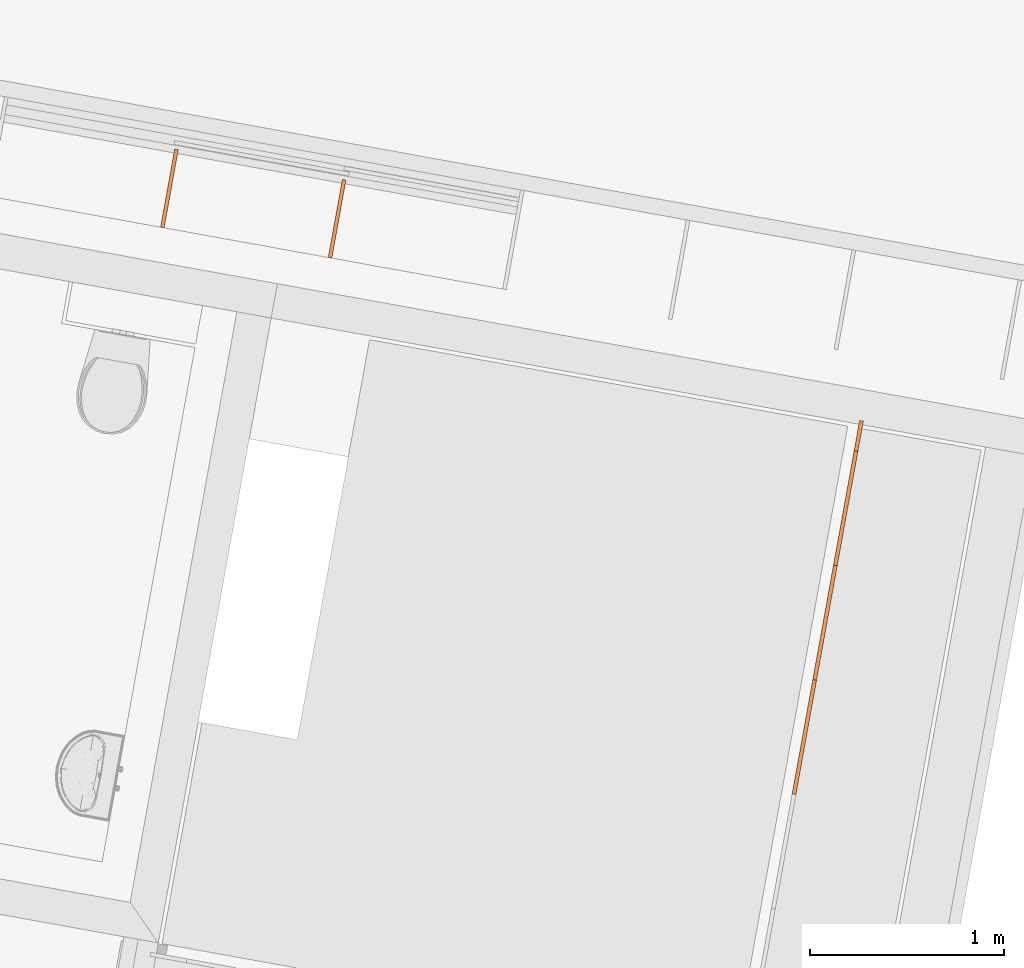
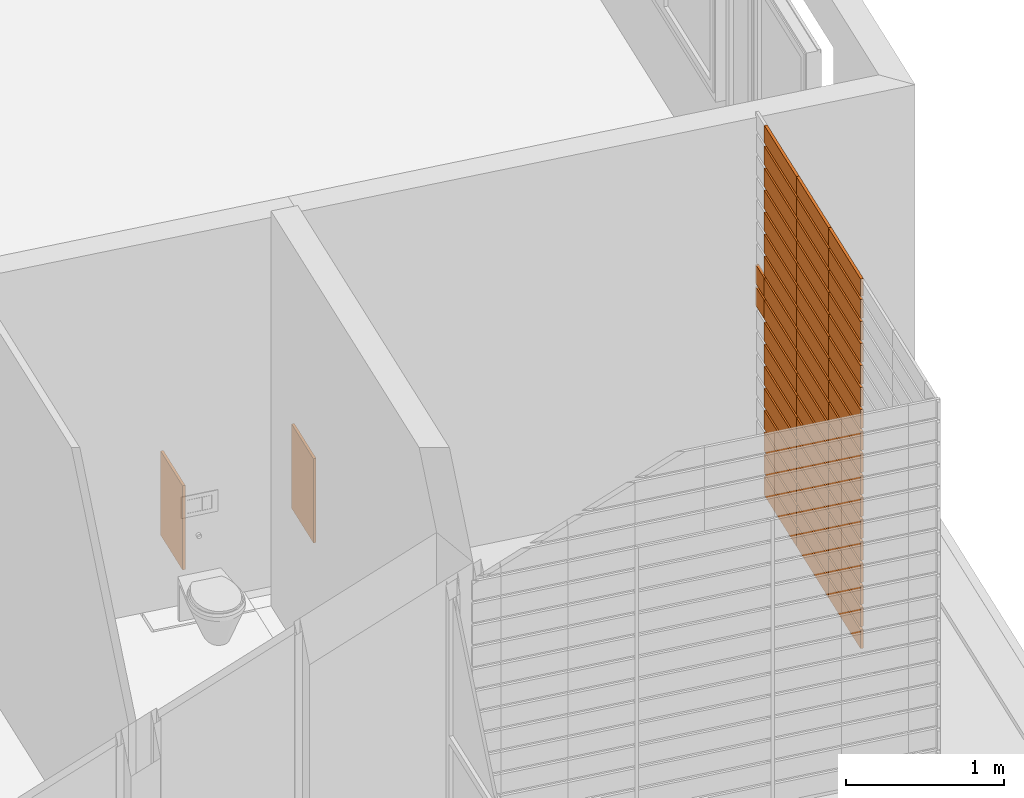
# One storey, part 33 of 52: 55 proxies, 1 element without a shape of its own.
"""IFC2X3 building model written with IfcOpenShell, lengths in metres."""

from ifc_helpers import new_model, entity, si_unit, converted_unit, derived_unit, money_unit, direction, frame, origin_with_axes, place, context, subcontext, project, spatial, polyline, outline, extrude, material, type_object, element, aggregate, save


model = new_model("IFC2X3")

# Units and contexts
model_context = context("Model", 3, precision=1e-05, world=origin_with_axes(), true_north=direction((0.0, 1.0)))
body_context = subcontext(model_context, "Body", "Model", "MODEL_VIEW")
ifc_project = project(units=[si_unit("LENGTHUNIT", "METRE"), si_unit("AREAUNIT", "SQUARE_METRE"), si_unit("VOLUMEUNIT", "CUBIC_METRE"), converted_unit("PLANEANGLEUNIT", "DEGREE", entity("IfcPlaneAngleMeasure", 0.0174532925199), si_unit("PLANEANGLEUNIT", "RADIAN"), dimensions=[0, 0, 0, 0, 0, 0, 0]), money_unit("CHF"), converted_unit("TIMEUNIT", "Year", entity("IfcTimeMeasure", 31556926.0), si_unit("TIMEUNIT", "SECOND"), dimensions=[0, 0, 1, 0, 0, 0, 0]), si_unit("MASSUNIT", "GRAM", prefix="KILO"), si_unit("THERMODYNAMICTEMPERATUREUNIT", "DEGREE_CELSIUS"), si_unit("LUMINOUSINTENSITYUNIT", "LUMEN"), si_unit("ENERGYUNIT", "JOULE", prefix="MEGA"), derived_unit("THERMALCONDUCTANCEUNIT", [(si_unit("POWERUNIT", "WATT"), 1), (si_unit("LENGTHUNIT", "METRE"), -1), (si_unit("THERMODYNAMICTEMPERATUREUNIT", "KELVIN"), -1)]), derived_unit("SPECIFICHEATCAPACITYUNIT", [(si_unit("ENERGYUNIT", "JOULE"), 1), (si_unit("MASSUNIT", "GRAM", prefix="KILO"), -1), (si_unit("THERMODYNAMICTEMPERATUREUNIT", "KELVIN"), -1)]), derived_unit("MASSDENSITYUNIT", [(si_unit("MASSUNIT", "GRAM", prefix="KILO"), 1), (si_unit("VOLUMEUNIT", "CUBIC_METRE"), -1)])], contexts=[model_context])

# Site, building, storey
site_placement = place(None, frame((0.0, 0.0, 0.0), z_axis=(0.0, 0.0, 1.0), x_axis=(-0.177771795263, -0.984071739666, 0.0)))
site = spatial("IfcSite", under=ifc_project, at=site_placement, Name="Site", CompositionType="ELEMENT")
building_placement = place(site_placement, origin_with_axes())
building = spatial("IfcBuilding", under=site, at=building_placement, Name="Bâtiment", CompositionType="ELEMENT")
storey_placement = place(building_placement, frame((0.0, 0.0, 3.2), z_axis=(0.0, 0.0, 1.0), x_axis=(1.0, 0.0, 0.0)))
storey = spatial("IfcBuildingStorey", under=building, at=storey_placement, Name="R+1", CompositionType="ELEMENT", Elevation=3.2)

# Proxies
ifc_material_1 = material(Name="_panneau mélaminé")
building_element_proxy_type_1 = type_object("IfcBuildingElementProxyType", Name="_panneau mélaminé 19", PredefinedType="NOTDEFINED")
proxy_1_placement = place(storey_placement, frame((137.244841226, -152.903049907, 0.0), z_axis=(0.0, 0.0, 1.0), x_axis=(1.0, 0.0, 0.0)))
element("IfcBuildingElementProxy", 1, at=proxy_1_placement, inside=storey, type_object=building_element_proxy_type_1, material=ifc_material_1, Name="raidiseur-sous-tableau", context=body_context, shape_type="SweptSolid", body=[
    extrude(outline(polyline([(0.0, -0.0095), (0.409999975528, -0.0095), (0.409999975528, 0.0095), (0.0, 0.0095), (0.0, -0.0095)])), origin_with_axes(), (0.0, 0.0, 1.0), 0.65),
])
proxy_2_placement = place(storey_placement, frame((137.244841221, -152.023049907, 0.0), z_axis=(0.0, 0.0, 1.0), x_axis=(1.0, 0.0, 0.0)))
element("IfcBuildingElementProxy", 2, at=proxy_2_placement, inside=storey, type_object=building_element_proxy_type_1, material=ifc_material_1, Name="raidiseur-sous-tableau", context=body_context, shape_type="SweptSolid", body=[
    extrude(outline(polyline([(0.0, -0.0095), (0.409999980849, -0.0095), (0.409999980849, 0.0095), (0.0, 0.0095), (0.0, -0.0095)])), origin_with_axes(), (0.0, 0.0, 1.0), 0.65),
])

# Curtain wall, proxies
curtain_wall_type = type_object("IfcCurtainWallType", Name="Type de mur-rideau", PredefinedType="NOTDEFINED")
curtain_wall_placement = place(storey_placement, frame((0.0, 0.0, -3.2), z_axis=(0.0, 0.0, 1.0), x_axis=(1.0, 0.0, 0.0)))
curtain_wall = element("IfcCurtainWall", 3, at=curtain_wall_placement, inside=storey, type_object=curtain_wall_type, Name="pare-vue CTA")
ifc_material_2 = material(Name="Matériau de construction IFC")
building_element_proxy_type_2 = type_object("IfcBuildingElementProxyType", Name="Panneau principal 600 x 170 x 20", PredefinedType="NOTDEFINED")
proxy_3_placement = place(curtain_wall_placement, frame((138.454841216, -149.172151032, 5.3375), z_axis=(0.0, 0.0, 1.0), x_axis=(-1.0, 0.0, 0.0)))
proxy_3 = element("IfcBuildingElementProxy", 4, at=proxy_3_placement, type_object=building_element_proxy_type_2, material=ifc_material_2, Name="Panel-Main-259", context=body_context, shape_type="SweptSolid", body=[
    extrude(outline(polyline([(-0.3, -0.0725), (0.3, -0.0725), (0.3, 0.0725), (-0.3, 0.0725), (-0.3, -0.0725)])), frame((0.0, -0.00999999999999, 0.0), z_axis=(0.0, 1.0, 0.0), x_axis=(1.0, 0.0, 0.0)), (0.0, 0.0, 1.0), 0.02),
])
proxy_4_placement = place(curtain_wall_placement, frame((139.054841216, -149.172151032, 3.2975), z_axis=(0.0, 0.0, 1.0), x_axis=(-1.0, 0.0, 0.0)))
proxy_4 = element("IfcBuildingElementProxy", 5, at=proxy_4_placement, type_object=building_element_proxy_type_2, material=ifc_material_2, Name="Panel-Main-259", context=body_context, shape_type="SweptSolid", body=[
    extrude(outline(polyline([(-0.3, -0.0725), (0.3, -0.0725), (0.3, 0.0725), (-0.3, 0.0725), (-0.3, -0.0725)])), frame((0.0, -0.00999999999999, 0.0), z_axis=(0.0, 1.0, 0.0), x_axis=(1.0, 0.0, 0.0)), (0.0, 0.0, 1.0), 0.02),
])
proxy_5_placement = place(curtain_wall_placement, frame((139.654841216, -149.172151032, 3.2975), z_axis=(0.0, 0.0, 1.0), x_axis=(-1.0, 0.0, 0.0)))
proxy_5 = element("IfcBuildingElementProxy", 6, at=proxy_5_placement, type_object=building_element_proxy_type_2, material=ifc_material_2, Name="Panel-Main-259", context=body_context, shape_type="SweptSolid", body=[
    extrude(outline(polyline([(-0.3, -0.0725), (0.3, -0.0725), (0.3, 0.0725), (-0.3, 0.0725), (-0.3, -0.0725)])), frame((0.0, -0.00999999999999, 0.0), z_axis=(0.0, 1.0, 0.0), x_axis=(1.0, 0.0, 0.0)), (0.0, 0.0, 1.0), 0.02),
])
proxy_6_placement = place(curtain_wall_placement, frame((139.054841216, -149.172151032, 3.4675), z_axis=(0.0, 0.0, 1.0), x_axis=(-1.0, 0.0, 0.0)))
proxy_6 = element("IfcBuildingElementProxy", 7, at=proxy_6_placement, type_object=building_element_proxy_type_2, material=ifc_material_2, Name="Panel-Main-259", context=body_context, shape_type="SweptSolid", body=[
    extrude(outline(polyline([(-0.3, -0.0725), (0.3, -0.0725), (0.3, 0.0725), (-0.3, 0.0725), (-0.3, -0.0725)])), frame((0.0, -0.00999999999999, 0.0), z_axis=(0.0, 1.0, 0.0), x_axis=(1.0, 0.0, 0.0)), (0.0, 0.0, 1.0), 0.02),
])
proxy_7_placement = place(curtain_wall_placement, frame((139.654841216, -149.172151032, 3.4675), z_axis=(0.0, 0.0, 1.0), x_axis=(-1.0, 0.0, 0.0)))
proxy_7 = element("IfcBuildingElementProxy", 8, at=proxy_7_placement, type_object=building_element_proxy_type_2, material=ifc_material_2, Name="Panel-Main-259", context=body_context, shape_type="SweptSolid", body=[
    extrude(outline(polyline([(-0.3, -0.0725), (0.3, -0.0725), (0.3, 0.0725), (-0.3, 0.0725), (-0.3, -0.0725)])), frame((0.0, -0.00999999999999, 0.0), z_axis=(0.0, 1.0, 0.0), x_axis=(1.0, 0.0, 0.0)), (0.0, 0.0, 1.0), 0.02),
])
proxy_8_placement = place(curtain_wall_placement, frame((138.454841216, -149.172151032, 4.3175), z_axis=(0.0, 0.0, 1.0), x_axis=(-1.0, 0.0, 0.0)))
proxy_8 = element("IfcBuildingElementProxy", 9, at=proxy_8_placement, type_object=building_element_proxy_type_2, material=ifc_material_2, Name="Panel-Main-259", context=body_context, shape_type="SweptSolid", body=[
    extrude(outline(polyline([(-0.3, -0.0725), (0.3, -0.0725), (0.3, 0.0725), (-0.3, 0.0725), (-0.3, -0.0725)])), frame((0.0, -0.00999999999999, 0.0), z_axis=(0.0, 1.0, 0.0), x_axis=(1.0, 0.0, 0.0)), (0.0, 0.0, 1.0), 0.02),
])
proxy_9_placement = place(curtain_wall_placement, frame((139.054841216, -149.172151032, 3.6375), z_axis=(0.0, 0.0, 1.0), x_axis=(-1.0, 0.0, 0.0)))
proxy_9 = element("IfcBuildingElementProxy", 10, at=proxy_9_placement, type_object=building_element_proxy_type_2, material=ifc_material_2, Name="Panel-Main-259", context=body_context, shape_type="SweptSolid", body=[
    extrude(outline(polyline([(-0.3, -0.0725), (0.3, -0.0725), (0.3, 0.0725), (-0.3, 0.0725), (-0.3, -0.0725)])), frame((0.0, -0.00999999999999, 0.0), z_axis=(0.0, 1.0, 0.0), x_axis=(1.0, 0.0, 0.0)), (0.0, 0.0, 1.0), 0.02),
])
proxy_10_placement = place(curtain_wall_placement, frame((139.654841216, -149.172151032, 3.6375), z_axis=(0.0, 0.0, 1.0), x_axis=(-1.0, 0.0, 0.0)))
proxy_10 = element("IfcBuildingElementProxy", 11, at=proxy_10_placement, type_object=building_element_proxy_type_2, material=ifc_material_2, Name="Panel-Main-259", context=body_context, shape_type="SweptSolid", body=[
    extrude(outline(polyline([(-0.3, -0.0725), (0.3, -0.0725), (0.3, 0.0725), (-0.3, 0.0725), (-0.3, -0.0725)])), frame((0.0, -0.00999999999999, 0.0), z_axis=(0.0, 1.0, 0.0), x_axis=(1.0, 0.0, 0.0)), (0.0, 0.0, 1.0), 0.02),
])
proxy_11_placement = place(curtain_wall_placement, frame((139.054841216, -149.172151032, 3.8075), z_axis=(0.0, 0.0, 1.0), x_axis=(-1.0, 0.0, 0.0)))
proxy_11 = element("IfcBuildingElementProxy", 12, at=proxy_11_placement, type_object=building_element_proxy_type_2, material=ifc_material_2, Name="Panel-Main-259", context=body_context, shape_type="SweptSolid", body=[
    extrude(outline(polyline([(-0.3, -0.0725), (0.3, -0.0725), (0.3, 0.0725), (-0.3, 0.0725), (-0.3, -0.0725)])), frame((0.0, -0.00999999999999, 0.0), z_axis=(0.0, 1.0, 0.0), x_axis=(1.0, 0.0, 0.0)), (0.0, 0.0, 1.0), 0.02),
])
proxy_12_placement = place(curtain_wall_placement, frame((139.654841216, -149.172151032, 3.8075), z_axis=(0.0, 0.0, 1.0), x_axis=(-1.0, 0.0, 0.0)))
proxy_12 = element("IfcBuildingElementProxy", 13, at=proxy_12_placement, type_object=building_element_proxy_type_2, material=ifc_material_2, Name="Panel-Main-259", context=body_context, shape_type="SweptSolid", body=[
    extrude(outline(polyline([(-0.3, -0.0725), (0.3, -0.0725), (0.3, 0.0725), (-0.3, 0.0725), (-0.3, -0.0725)])), frame((0.0, -0.00999999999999, 0.0), z_axis=(0.0, 1.0, 0.0), x_axis=(1.0, 0.0, 0.0)), (0.0, 0.0, 1.0), 0.02),
])
proxy_13_placement = place(curtain_wall_placement, frame((139.054841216, -149.172151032, 3.9775), z_axis=(0.0, 0.0, 1.0), x_axis=(-1.0, 0.0, 0.0)))
proxy_13 = element("IfcBuildingElementProxy", 14, at=proxy_13_placement, type_object=building_element_proxy_type_2, material=ifc_material_2, Name="Panel-Main-259", context=body_context, shape_type="SweptSolid", body=[
    extrude(outline(polyline([(-0.3, -0.0725), (0.3, -0.0725), (0.3, 0.0725), (-0.3, 0.0725), (-0.3, -0.0725)])), frame((0.0, -0.00999999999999, 0.0), z_axis=(0.0, 1.0, 0.0), x_axis=(1.0, 0.0, 0.0)), (0.0, 0.0, 1.0), 0.02),
])
proxy_14_placement = place(curtain_wall_placement, frame((139.654841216, -149.172151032, 3.9775), z_axis=(0.0, 0.0, 1.0), x_axis=(-1.0, 0.0, 0.0)))
proxy_14 = element("IfcBuildingElementProxy", 15, at=proxy_14_placement, type_object=building_element_proxy_type_2, material=ifc_material_2, Name="Panel-Main-259", context=body_context, shape_type="SweptSolid", body=[
    extrude(outline(polyline([(-0.3, -0.0725), (0.3, -0.0725), (0.3, 0.0725), (-0.3, 0.0725), (-0.3, -0.0725)])), frame((0.0, -0.00999999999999, 0.0), z_axis=(0.0, 1.0, 0.0), x_axis=(1.0, 0.0, 0.0)), (0.0, 0.0, 1.0), 0.02),
])
proxy_15_placement = place(curtain_wall_placement, frame((138.454841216, -149.172151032, 3.6375), z_axis=(0.0, 0.0, 1.0), x_axis=(-1.0, 0.0, 0.0)))
proxy_15 = element("IfcBuildingElementProxy", 16, at=proxy_15_placement, type_object=building_element_proxy_type_2, material=ifc_material_2, Name="Panel-Main-259", context=body_context, shape_type="SweptSolid", body=[
    extrude(outline(polyline([(-0.3, -0.0725), (0.3, -0.0725), (0.3, 0.0725), (-0.3, 0.0725), (-0.3, -0.0725)])), frame((0.0, -0.00999999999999, 0.0), z_axis=(0.0, 1.0, 0.0), x_axis=(1.0, 0.0, 0.0)), (0.0, 0.0, 1.0), 0.02),
])
proxy_16_placement = place(curtain_wall_placement, frame((139.054841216, -149.172151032, 4.1475), z_axis=(0.0, 0.0, 1.0), x_axis=(-1.0, 0.0, 0.0)))
proxy_16 = element("IfcBuildingElementProxy", 17, at=proxy_16_placement, type_object=building_element_proxy_type_2, material=ifc_material_2, Name="Panel-Main-259", context=body_context, shape_type="SweptSolid", body=[
    extrude(outline(polyline([(-0.3, -0.0725), (0.3, -0.0725), (0.3, 0.0725), (-0.3, 0.0725), (-0.3, -0.0725)])), frame((0.0, -0.00999999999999, 0.0), z_axis=(0.0, 1.0, 0.0), x_axis=(1.0, 0.0, 0.0)), (0.0, 0.0, 1.0), 0.02),
])
proxy_17_placement = place(curtain_wall_placement, frame((139.654841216, -149.172151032, 4.1475), z_axis=(0.0, 0.0, 1.0), x_axis=(-1.0, 0.0, 0.0)))
proxy_17 = element("IfcBuildingElementProxy", 18, at=proxy_17_placement, type_object=building_element_proxy_type_2, material=ifc_material_2, Name="Panel-Main-259", context=body_context, shape_type="SweptSolid", body=[
    extrude(outline(polyline([(-0.3, -0.0725), (0.3, -0.0725), (0.3, 0.0725), (-0.3, 0.0725), (-0.3, -0.0725)])), frame((0.0, -0.00999999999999, 0.0), z_axis=(0.0, 1.0, 0.0), x_axis=(1.0, 0.0, 0.0)), (0.0, 0.0, 1.0), 0.02),
])
proxy_18_placement = place(curtain_wall_placement, frame((138.454841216, -149.172151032, 5.8475), z_axis=(0.0, 0.0, 1.0), x_axis=(-1.0, 0.0, 0.0)))
proxy_18 = element("IfcBuildingElementProxy", 19, at=proxy_18_placement, type_object=building_element_proxy_type_2, material=ifc_material_2, Name="Panel-Main-259", context=body_context, shape_type="SweptSolid", body=[
    extrude(outline(polyline([(-0.3, -0.0725), (0.3, -0.0725), (0.3, 0.0725), (-0.3, 0.0725), (-0.3, -0.0725)])), frame((0.0, -0.00999999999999, 0.0), z_axis=(0.0, 1.0, 0.0), x_axis=(1.0, 0.0, 0.0)), (0.0, 0.0, 1.0), 0.02),
])
proxy_19_placement = place(curtain_wall_placement, frame((139.054841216, -149.172151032, 4.3175), z_axis=(0.0, 0.0, 1.0), x_axis=(-1.0, 0.0, 0.0)))
proxy_19 = element("IfcBuildingElementProxy", 20, at=proxy_19_placement, type_object=building_element_proxy_type_2, material=ifc_material_2, Name="Panel-Main-259", context=body_context, shape_type="SweptSolid", body=[
    extrude(outline(polyline([(-0.3, -0.0725), (0.3, -0.0725), (0.3, 0.0725), (-0.3, 0.0725), (-0.3, -0.0725)])), frame((0.0, -0.00999999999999, 0.0), z_axis=(0.0, 1.0, 0.0), x_axis=(1.0, 0.0, 0.0)), (0.0, 0.0, 1.0), 0.02),
])
proxy_20_placement = place(curtain_wall_placement, frame((139.654841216, -149.172151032, 4.3175), z_axis=(0.0, 0.0, 1.0), x_axis=(-1.0, 0.0, 0.0)))
proxy_20 = element("IfcBuildingElementProxy", 21, at=proxy_20_placement, type_object=building_element_proxy_type_2, material=ifc_material_2, Name="Panel-Main-259", context=body_context, shape_type="SweptSolid", body=[
    extrude(outline(polyline([(-0.3, -0.0725), (0.3, -0.0725), (0.3, 0.0725), (-0.3, 0.0725), (-0.3, -0.0725)])), frame((0.0, -0.00999999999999, 0.0), z_axis=(0.0, 1.0, 0.0), x_axis=(1.0, 0.0, 0.0)), (0.0, 0.0, 1.0), 0.02),
])
proxy_21_placement = place(curtain_wall_placement, frame((138.454841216, -149.172151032, 4.1475), z_axis=(0.0, 0.0, 1.0), x_axis=(-1.0, 0.0, 0.0)))
proxy_21 = element("IfcBuildingElementProxy", 22, at=proxy_21_placement, type_object=building_element_proxy_type_2, material=ifc_material_2, Name="Panel-Main-259", context=body_context, shape_type="SweptSolid", body=[
    extrude(outline(polyline([(-0.3, -0.0725), (0.3, -0.0725), (0.3, 0.0725), (-0.3, 0.0725), (-0.3, -0.0725)])), frame((0.0, -0.00999999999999, 0.0), z_axis=(0.0, 1.0, 0.0), x_axis=(1.0, 0.0, 0.0)), (0.0, 0.0, 1.0), 0.02),
])
proxy_22_placement = place(curtain_wall_placement, frame((139.054841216, -149.172151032, 4.4875), z_axis=(0.0, 0.0, 1.0), x_axis=(-1.0, 0.0, 0.0)))
proxy_22 = element("IfcBuildingElementProxy", 23, at=proxy_22_placement, type_object=building_element_proxy_type_2, material=ifc_material_2, Name="Panel-Main-259", context=body_context, shape_type="SweptSolid", body=[
    extrude(outline(polyline([(-0.3, -0.0725), (0.3, -0.0725), (0.3, 0.0725), (-0.3, 0.0725), (-0.3, -0.0725)])), frame((0.0, -0.00999999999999, 0.0), z_axis=(0.0, 1.0, 0.0), x_axis=(1.0, 0.0, 0.0)), (0.0, 0.0, 1.0), 0.02),
])
proxy_23_placement = place(curtain_wall_placement, frame((139.654841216, -149.172151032, 4.4875), z_axis=(0.0, 0.0, 1.0), x_axis=(-1.0, 0.0, 0.0)))
proxy_23 = element("IfcBuildingElementProxy", 24, at=proxy_23_placement, type_object=building_element_proxy_type_2, material=ifc_material_2, Name="Panel-Main-259", context=body_context, shape_type="SweptSolid", body=[
    extrude(outline(polyline([(-0.3, -0.0725), (0.3, -0.0725), (0.3, 0.0725), (-0.3, 0.0725), (-0.3, -0.0725)])), frame((0.0, -0.00999999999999, 0.0), z_axis=(0.0, 1.0, 0.0), x_axis=(1.0, 0.0, 0.0)), (0.0, 0.0, 1.0), 0.02),
])
proxy_24_placement = place(curtain_wall_placement, frame((138.454841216, -149.172151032, 4.8275), z_axis=(0.0, 0.0, 1.0), x_axis=(-1.0, 0.0, 0.0)))
proxy_24 = element("IfcBuildingElementProxy", 25, at=proxy_24_placement, type_object=building_element_proxy_type_2, material=ifc_material_2, Name="Panel-Main-259", context=body_context, shape_type="SweptSolid", body=[
    extrude(outline(polyline([(-0.3, -0.0725), (0.3, -0.0725), (0.3, 0.0725), (-0.3, 0.0725), (-0.3, -0.0725)])), frame((0.0, -0.00999999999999, 0.0), z_axis=(0.0, 1.0, 0.0), x_axis=(1.0, 0.0, 0.0)), (0.0, 0.0, 1.0), 0.02),
])
proxy_25_placement = place(curtain_wall_placement, frame((139.054841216, -149.172151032, 4.6575), z_axis=(0.0, 0.0, 1.0), x_axis=(-1.0, 0.0, 0.0)))
proxy_25 = element("IfcBuildingElementProxy", 26, at=proxy_25_placement, type_object=building_element_proxy_type_2, material=ifc_material_2, Name="Panel-Main-259", context=body_context, shape_type="SweptSolid", body=[
    extrude(outline(polyline([(-0.3, -0.0725), (0.3, -0.0725), (0.3, 0.0725), (-0.3, 0.0725), (-0.3, -0.0725)])), frame((0.0, -0.00999999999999, 0.0), z_axis=(0.0, 1.0, 0.0), x_axis=(1.0, 0.0, 0.0)), (0.0, 0.0, 1.0), 0.02),
])
proxy_26_placement = place(curtain_wall_placement, frame((139.654841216, -149.172151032, 4.6575), z_axis=(0.0, 0.0, 1.0), x_axis=(-1.0, 0.0, 0.0)))
proxy_26 = element("IfcBuildingElementProxy", 27, at=proxy_26_placement, type_object=building_element_proxy_type_2, material=ifc_material_2, Name="Panel-Main-259", context=body_context, shape_type="SweptSolid", body=[
    extrude(outline(polyline([(-0.3, -0.0725), (0.3, -0.0725), (0.3, 0.0725), (-0.3, 0.0725), (-0.3, -0.0725)])), frame((0.0, -0.00999999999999, 0.0), z_axis=(0.0, 1.0, 0.0), x_axis=(1.0, 0.0, 0.0)), (0.0, 0.0, 1.0), 0.02),
])
proxy_27_placement = place(curtain_wall_placement, frame((138.454841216, -149.172151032, 4.4875), z_axis=(0.0, 0.0, 1.0), x_axis=(-1.0, 0.0, 0.0)))
proxy_27 = element("IfcBuildingElementProxy", 28, at=proxy_27_placement, type_object=building_element_proxy_type_2, material=ifc_material_2, Name="Panel-Main-259", context=body_context, shape_type="SweptSolid", body=[
    extrude(outline(polyline([(-0.3, -0.0725), (0.3, -0.0725), (0.3, 0.0725), (-0.3, 0.0725), (-0.3, -0.0725)])), frame((0.0, -0.00999999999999, 0.0), z_axis=(0.0, 1.0, 0.0), x_axis=(1.0, 0.0, 0.0)), (0.0, 0.0, 1.0), 0.02),
])
proxy_28_placement = place(curtain_wall_placement, frame((139.054841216, -149.172151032, 4.8275), z_axis=(0.0, 0.0, 1.0), x_axis=(-1.0, 0.0, 0.0)))
proxy_28 = element("IfcBuildingElementProxy", 29, at=proxy_28_placement, type_object=building_element_proxy_type_2, material=ifc_material_2, Name="Panel-Main-259", context=body_context, shape_type="SweptSolid", body=[
    extrude(outline(polyline([(-0.3, -0.0725), (0.3, -0.0725), (0.3, 0.0725), (-0.3, 0.0725), (-0.3, -0.0725)])), frame((0.0, -0.00999999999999, 0.0), z_axis=(0.0, 1.0, 0.0), x_axis=(1.0, 0.0, 0.0)), (0.0, 0.0, 1.0), 0.02),
])
proxy_29_placement = place(curtain_wall_placement, frame((139.654841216, -149.172151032, 4.8275), z_axis=(0.0, 0.0, 1.0), x_axis=(-1.0, 0.0, 0.0)))
proxy_29 = element("IfcBuildingElementProxy", 30, at=proxy_29_placement, type_object=building_element_proxy_type_2, material=ifc_material_2, Name="Panel-Main-259", context=body_context, shape_type="SweptSolid", body=[
    extrude(outline(polyline([(-0.3, -0.0725), (0.3, -0.0725), (0.3, 0.0725), (-0.3, 0.0725), (-0.3, -0.0725)])), frame((0.0, -0.00999999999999, 0.0), z_axis=(0.0, 1.0, 0.0), x_axis=(1.0, 0.0, 0.0)), (0.0, 0.0, 1.0), 0.02),
])
proxy_30_placement = place(curtain_wall_placement, frame((138.454841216, -149.172151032, 3.8075), z_axis=(0.0, 0.0, 1.0), x_axis=(-1.0, 0.0, 0.0)))
proxy_30 = element("IfcBuildingElementProxy", 31, at=proxy_30_placement, type_object=building_element_proxy_type_2, material=ifc_material_2, Name="Panel-Main-259", context=body_context, shape_type="SweptSolid", body=[
    extrude(outline(polyline([(-0.3, -0.0725), (0.3, -0.0725), (0.3, 0.0725), (-0.3, 0.0725), (-0.3, -0.0725)])), frame((0.0, -0.00999999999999, 0.0), z_axis=(0.0, 1.0, 0.0), x_axis=(1.0, 0.0, 0.0)), (0.0, 0.0, 1.0), 0.02),
])
proxy_31_placement = place(curtain_wall_placement, frame((139.054841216, -149.172151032, 4.9975), z_axis=(0.0, 0.0, 1.0), x_axis=(-1.0, 0.0, 0.0)))
proxy_31 = element("IfcBuildingElementProxy", 32, at=proxy_31_placement, type_object=building_element_proxy_type_2, material=ifc_material_2, Name="Panel-Main-259", context=body_context, shape_type="SweptSolid", body=[
    extrude(outline(polyline([(-0.3, -0.0725), (0.3, -0.0725), (0.3, 0.0725), (-0.3, 0.0725), (-0.3, -0.0725)])), frame((0.0, -0.00999999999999, 0.0), z_axis=(0.0, 1.0, 0.0), x_axis=(1.0, 0.0, 0.0)), (0.0, 0.0, 1.0), 0.02),
])
proxy_32_placement = place(curtain_wall_placement, frame((139.654841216, -149.172151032, 4.9975), z_axis=(0.0, 0.0, 1.0), x_axis=(-1.0, 0.0, 0.0)))
proxy_32 = element("IfcBuildingElementProxy", 33, at=proxy_32_placement, type_object=building_element_proxy_type_2, material=ifc_material_2, Name="Panel-Main-259", context=body_context, shape_type="SweptSolid", body=[
    extrude(outline(polyline([(-0.3, -0.0725), (0.3, -0.0725), (0.3, 0.0725), (-0.3, 0.0725), (-0.3, -0.0725)])), frame((0.0, -0.00999999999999, 0.0), z_axis=(0.0, 1.0, 0.0), x_axis=(1.0, 0.0, 0.0)), (0.0, 0.0, 1.0), 0.02),
])
proxy_33_placement = place(curtain_wall_placement, frame((138.454841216, -149.172151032, 3.2975), z_axis=(0.0, 0.0, 1.0), x_axis=(-1.0, 0.0, 0.0)))
proxy_33 = element("IfcBuildingElementProxy", 34, at=proxy_33_placement, type_object=building_element_proxy_type_2, material=ifc_material_2, Name="Panel-Main-259", context=body_context, shape_type="SweptSolid", body=[
    extrude(outline(polyline([(-0.3, -0.0725), (0.3, -0.0725), (0.3, 0.0725), (-0.3, 0.0725), (-0.3, -0.0725)])), frame((0.0, -0.00999999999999, 0.0), z_axis=(0.0, 1.0, 0.0), x_axis=(1.0, 0.0, 0.0)), (0.0, 0.0, 1.0), 0.02),
])
proxy_34_placement = place(curtain_wall_placement, frame((139.054841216, -149.172151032, 5.3375), z_axis=(0.0, 0.0, 1.0), x_axis=(-1.0, 0.0, 0.0)))
proxy_34 = element("IfcBuildingElementProxy", 35, at=proxy_34_placement, type_object=building_element_proxy_type_2, material=ifc_material_2, Name="Panel-Main-259", context=body_context, shape_type="SweptSolid", body=[
    extrude(outline(polyline([(-0.3, -0.0725), (0.3, -0.0725), (0.3, 0.0725), (-0.3, 0.0725), (-0.3, -0.0725)])), frame((0.0, -0.00999999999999, 0.0), z_axis=(0.0, 1.0, 0.0), x_axis=(1.0, 0.0, 0.0)), (0.0, 0.0, 1.0), 0.02),
])
proxy_35_placement = place(curtain_wall_placement, frame((139.654841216, -149.172151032, 5.3375), z_axis=(0.0, 0.0, 1.0), x_axis=(-1.0, 0.0, 0.0)))
proxy_35 = element("IfcBuildingElementProxy", 36, at=proxy_35_placement, type_object=building_element_proxy_type_2, material=ifc_material_2, Name="Panel-Main-259", context=body_context, shape_type="SweptSolid", body=[
    extrude(outline(polyline([(-0.3, -0.0725), (0.3, -0.0725), (0.3, 0.0725), (-0.3, 0.0725), (-0.3, -0.0725)])), frame((0.0, -0.00999999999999, 0.0), z_axis=(0.0, 1.0, 0.0), x_axis=(1.0, 0.0, 0.0)), (0.0, 0.0, 1.0), 0.02),
])
proxy_36_placement = place(curtain_wall_placement, frame((138.454841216, -149.172151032, 5.5075), z_axis=(0.0, 0.0, 1.0), x_axis=(-1.0, 0.0, 0.0)))
proxy_36 = element("IfcBuildingElementProxy", 37, at=proxy_36_placement, type_object=building_element_proxy_type_2, material=ifc_material_2, Name="Panel-Main-259", context=body_context, shape_type="SweptSolid", body=[
    extrude(outline(polyline([(-0.3, -0.0725), (0.3, -0.0725), (0.3, 0.0725), (-0.3, 0.0725), (-0.3, -0.0725)])), frame((0.0, -0.00999999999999, 0.0), z_axis=(0.0, 1.0, 0.0), x_axis=(1.0, 0.0, 0.0)), (0.0, 0.0, 1.0), 0.02),
])
proxy_37_placement = place(curtain_wall_placement, frame((139.054841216, -149.172151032, 5.5075), z_axis=(0.0, 0.0, 1.0), x_axis=(-1.0, 0.0, 0.0)))
proxy_37 = element("IfcBuildingElementProxy", 38, at=proxy_37_placement, type_object=building_element_proxy_type_2, material=ifc_material_2, Name="Panel-Main-259", context=body_context, shape_type="SweptSolid", body=[
    extrude(outline(polyline([(-0.3, -0.0725), (0.3, -0.0725), (0.3, 0.0725), (-0.3, 0.0725), (-0.3, -0.0725)])), frame((0.0, -0.00999999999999, 0.0), z_axis=(0.0, 1.0, 0.0), x_axis=(1.0, 0.0, 0.0)), (0.0, 0.0, 1.0), 0.02),
])
proxy_38_placement = place(curtain_wall_placement, frame((139.654841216, -149.172151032, 5.5075), z_axis=(0.0, 0.0, 1.0), x_axis=(-1.0, 0.0, 0.0)))
proxy_38 = element("IfcBuildingElementProxy", 39, at=proxy_38_placement, type_object=building_element_proxy_type_2, material=ifc_material_2, Name="Panel-Main-259", context=body_context, shape_type="SweptSolid", body=[
    extrude(outline(polyline([(-0.3, -0.0725), (0.3, -0.0725), (0.3, 0.0725), (-0.3, 0.0725), (-0.3, -0.0725)])), frame((0.0, -0.00999999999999, 0.0), z_axis=(0.0, 1.0, 0.0), x_axis=(1.0, 0.0, 0.0)), (0.0, 0.0, 1.0), 0.02),
])
proxy_39_placement = place(curtain_wall_placement, frame((139.054841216, -149.172151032, 5.6775), z_axis=(0.0, 0.0, 1.0), x_axis=(-1.0, 0.0, 0.0)))
proxy_39 = element("IfcBuildingElementProxy", 40, at=proxy_39_placement, type_object=building_element_proxy_type_2, material=ifc_material_2, Name="Panel-Main-259", context=body_context, shape_type="SweptSolid", body=[
    extrude(outline(polyline([(-0.3, -0.0725), (0.3, -0.0725), (0.3, 0.0725), (-0.3, 0.0725), (-0.3, -0.0725)])), frame((0.0, -0.00999999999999, 0.0), z_axis=(0.0, 1.0, 0.0), x_axis=(1.0, 0.0, 0.0)), (0.0, 0.0, 1.0), 0.02),
])
proxy_40_placement = place(curtain_wall_placement, frame((139.654841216, -149.172151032, 5.6775), z_axis=(0.0, 0.0, 1.0), x_axis=(-1.0, 0.0, 0.0)))
proxy_40 = element("IfcBuildingElementProxy", 41, at=proxy_40_placement, type_object=building_element_proxy_type_2, material=ifc_material_2, Name="Panel-Main-259", context=body_context, shape_type="SweptSolid", body=[
    extrude(outline(polyline([(-0.3, -0.0725), (0.3, -0.0725), (0.3, 0.0725), (-0.3, 0.0725), (-0.3, -0.0725)])), frame((0.0, -0.00999999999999, 0.0), z_axis=(0.0, 1.0, 0.0), x_axis=(1.0, 0.0, 0.0)), (0.0, 0.0, 1.0), 0.02),
])
proxy_41_placement = place(curtain_wall_placement, frame((139.054841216, -149.172151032, 5.8475), z_axis=(0.0, 0.0, 1.0), x_axis=(-1.0, 0.0, 0.0)))
proxy_41 = element("IfcBuildingElementProxy", 42, at=proxy_41_placement, type_object=building_element_proxy_type_2, material=ifc_material_2, Name="Panel-Main-259", context=body_context, shape_type="SweptSolid", body=[
    extrude(outline(polyline([(-0.3, -0.0725), (0.3, -0.0725), (0.3, 0.0725), (-0.3, 0.0725), (-0.3, -0.0725)])), frame((0.0, -0.00999999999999, 0.0), z_axis=(0.0, 1.0, 0.0), x_axis=(1.0, 0.0, 0.0)), (0.0, 0.0, 1.0), 0.02),
])
proxy_42_placement = place(curtain_wall_placement, frame((139.654841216, -149.172151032, 5.8475), z_axis=(0.0, 0.0, 1.0), x_axis=(-1.0, 0.0, 0.0)))
proxy_42 = element("IfcBuildingElementProxy", 43, at=proxy_42_placement, type_object=building_element_proxy_type_2, material=ifc_material_2, Name="Panel-Main-259", context=body_context, shape_type="SweptSolid", body=[
    extrude(outline(polyline([(-0.3, -0.0725), (0.3, -0.0725), (0.3, 0.0725), (-0.3, 0.0725), (-0.3, -0.0725)])), frame((0.0, -0.00999999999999, 0.0), z_axis=(0.0, 1.0, 0.0), x_axis=(1.0, 0.0, 0.0)), (0.0, 0.0, 1.0), 0.02),
])
proxy_43_placement = place(curtain_wall_placement, frame((138.454841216, -149.172151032, 5.6775), z_axis=(0.0, 0.0, 1.0), x_axis=(-1.0, 0.0, 0.0)))
proxy_43 = element("IfcBuildingElementProxy", 44, at=proxy_43_placement, type_object=building_element_proxy_type_2, material=ifc_material_2, Name="Panel-Main-259", context=body_context, shape_type="SweptSolid", body=[
    extrude(outline(polyline([(-0.3, -0.0725), (0.3, -0.0725), (0.3, 0.0725), (-0.3, 0.0725), (-0.3, -0.0725)])), frame((0.0, -0.00999999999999, 0.0), z_axis=(0.0, 1.0, 0.0), x_axis=(1.0, 0.0, 0.0)), (0.0, 0.0, 1.0), 0.02),
])
proxy_44_placement = place(curtain_wall_placement, frame((138.454841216, -149.172151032, 4.9975), z_axis=(0.0, 0.0, 1.0), x_axis=(-1.0, 0.0, 0.0)))
proxy_44 = element("IfcBuildingElementProxy", 45, at=proxy_44_placement, type_object=building_element_proxy_type_2, material=ifc_material_2, Name="Panel-Main-259", context=body_context, shape_type="SweptSolid", body=[
    extrude(outline(polyline([(-0.3, -0.0725), (0.3, -0.0725), (0.3, 0.0725), (-0.3, 0.0725), (-0.3, -0.0725)])), frame((0.0, -0.00999999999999, 0.0), z_axis=(0.0, 1.0, 0.0), x_axis=(1.0, 0.0, 0.0)), (0.0, 0.0, 1.0), 0.02),
])
proxy_45_placement = place(curtain_wall_placement, frame((138.454841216, -149.172151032, 3.4675), z_axis=(0.0, 0.0, 1.0), x_axis=(-1.0, 0.0, 0.0)))
proxy_45 = element("IfcBuildingElementProxy", 46, at=proxy_45_placement, type_object=building_element_proxy_type_2, material=ifc_material_2, Name="Panel-Main-259", context=body_context, shape_type="SweptSolid", body=[
    extrude(outline(polyline([(-0.3, -0.0725), (0.3, -0.0725), (0.3, 0.0725), (-0.3, 0.0725), (-0.3, -0.0725)])), frame((0.0, -0.00999999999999, 0.0), z_axis=(0.0, 1.0, 0.0), x_axis=(1.0, 0.0, 0.0)), (0.0, 0.0, 1.0), 0.02),
])
proxy_46_placement = place(curtain_wall_placement, frame((138.454841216, -149.172151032, 3.9775), z_axis=(0.0, 0.0, 1.0), x_axis=(-1.0, 0.0, 0.0)))
proxy_46 = element("IfcBuildingElementProxy", 47, at=proxy_46_placement, type_object=building_element_proxy_type_2, material=ifc_material_2, Name="Panel-Main-259", context=body_context, shape_type="SweptSolid", body=[
    extrude(outline(polyline([(-0.3, -0.0725), (0.3, -0.0725), (0.3, 0.0725), (-0.3, 0.0725), (-0.3, -0.0725)])), frame((0.0, -0.00999999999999, 0.0), z_axis=(0.0, 1.0, 0.0), x_axis=(1.0, 0.0, 0.0)), (0.0, 0.0, 1.0), 0.02),
])
proxy_47_placement = place(curtain_wall_placement, frame((138.454841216, -149.172151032, 4.6575), z_axis=(0.0, 0.0, 1.0), x_axis=(-1.0, 0.0, 0.0)))
proxy_47 = element("IfcBuildingElementProxy", 48, at=proxy_47_placement, type_object=building_element_proxy_type_2, material=ifc_material_2, Name="Panel-Main-259", context=body_context, shape_type="SweptSolid", body=[
    extrude(outline(polyline([(-0.3, -0.0725), (0.3, -0.0725), (0.3, 0.0725), (-0.3, 0.0725), (-0.3, -0.0725)])), frame((0.0, -0.00999999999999, 0.0), z_axis=(0.0, 1.0, 0.0), x_axis=(1.0, 0.0, 0.0)), (0.0, 0.0, 1.0), 0.02),
])
building_element_proxy_type_3 = type_object("IfcBuildingElementProxyType", Name="Panneau principal 160 x 170 x 20", PredefinedType="NOTDEFINED")
proxy_48_placement = place(curtain_wall_placement, frame((138.074841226, -149.172151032, 4.6575), z_axis=(0.0, 0.0, 1.0), x_axis=(-1.0, 0.0, 0.0)))
proxy_48 = element("IfcBuildingElementProxy", 49, at=proxy_48_placement, type_object=building_element_proxy_type_3, material=ifc_material_2, Name="Panel-Main-681", context=body_context, shape_type="SweptSolid", body=[
    extrude(outline(polyline([(-0.0799999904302, -0.0724999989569), (0.0799999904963, -0.0724999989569), (0.0799999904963, 0.0724999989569), (-0.0799999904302, 0.0724999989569), (-0.0799999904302, -0.0724999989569)])), frame((0.0, -0.00999999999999, 0.0), z_axis=(0.0, 1.0, 0.0), x_axis=(1.0, 0.0, 0.0)), (0.0, 0.0, 1.0), 0.02),
])
proxy_49_placement = place(curtain_wall_placement, frame((138.074841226, -149.172151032, 4.8275), z_axis=(0.0, 0.0, 1.0), x_axis=(-1.0, 0.0, 0.0)))
proxy_49 = element("IfcBuildingElementProxy", 50, at=proxy_49_placement, type_object=building_element_proxy_type_3, material=ifc_material_2, Name="Panel-Main-682", context=body_context, shape_type="SweptSolid", body=[
    extrude(outline(polyline([(-0.0799999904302, -0.0724999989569), (0.0799999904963, -0.0724999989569), (0.0799999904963, 0.0724999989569), (-0.0799999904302, 0.0724999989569), (-0.0799999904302, -0.0724999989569)])), frame((0.0, -0.00999999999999, 0.0), z_axis=(0.0, 1.0, 0.0), x_axis=(1.0, 0.0, 0.0)), (0.0, 0.0, 1.0), 0.02),
])
building_element_proxy_type_4 = type_object("IfcBuildingElementProxyType", Name="600 x 170 x 20", PredefinedType="NOTDEFINED")
proxy_50_placement = place(curtain_wall_placement, frame((139.054841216, -149.172151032, 5.1675), z_axis=(0.0, 0.0, 1.0), x_axis=(-1.0, 0.0, 0.0)))
proxy_50 = element("IfcBuildingElementProxy", 51, at=proxy_50_placement, type_object=building_element_proxy_type_4, material=ifc_material_2, Name="Panel-Main-190", context=body_context, shape_type="SweptSolid", body=[
    extrude(outline(polyline([(-0.3, -0.0725), (0.3, -0.0725), (0.3, 0.0725), (-0.3, 0.0725), (-0.3, -0.0725)])), frame((0.0, -0.00999999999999, 0.0), z_axis=(0.0, 1.0, 0.0), x_axis=(1.0, 0.0, 0.0)), (0.0, 0.0, 1.0), 0.02),
])
proxy_51_placement = place(curtain_wall_placement, frame((139.654841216, -149.172151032, 5.1675), z_axis=(0.0, 0.0, 1.0), x_axis=(-1.0, 0.0, 0.0)))
proxy_51 = element("IfcBuildingElementProxy", 52, at=proxy_51_placement, type_object=building_element_proxy_type_4, material=ifc_material_2, Name="Panel-Main-190", context=body_context, shape_type="SweptSolid", body=[
    extrude(outline(polyline([(-0.3, -0.0725), (0.3, -0.0725), (0.3, 0.0725), (-0.3, 0.0725), (-0.3, -0.0725)])), frame((0.0, -0.00999999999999, 0.0), z_axis=(0.0, 1.0, 0.0), x_axis=(1.0, 0.0, 0.0)), (0.0, 0.0, 1.0), 0.02),
])
proxy_52_placement = place(curtain_wall_placement, frame((138.454841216, -149.172151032, 5.1675), z_axis=(0.0, 0.0, 1.0), x_axis=(-1.0, 0.0, 0.0)))
proxy_52 = element("IfcBuildingElementProxy", 53, at=proxy_52_placement, type_object=building_element_proxy_type_4, material=ifc_material_2, Name="Panel-Main-190", context=body_context, shape_type="SweptSolid", body=[
    extrude(outline(polyline([(-0.3, -0.0725), (0.3, -0.0725), (0.3, 0.0725), (-0.3, 0.0725), (-0.3, -0.0725)])), frame((0.0, -0.00999999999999, 0.0), z_axis=(0.0, 1.0, 0.0), x_axis=(1.0, 0.0, 0.0)), (0.0, 0.0, 1.0), 0.02),
])
building_element_proxy_type_5 = type_object("IfcBuildingElementProxyType", Name="Panneau principal 600 x 147 x 20", PredefinedType="NOTDEFINED")
proxy_53_placement = place(curtain_wall_placement, frame((139.654841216, -149.172151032, 6.00624999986), z_axis=(0.0, 0.0, 1.0), x_axis=(-1.0, 0.0, 0.0)))
proxy_53 = element("IfcBuildingElementProxy", 54, at=proxy_53_placement, type_object=building_element_proxy_type_5, material=ifc_material_2, Name="Panel-Main-248", context=body_context, shape_type="SweptSolid", body=[
    extrude(outline(polyline([(-0.3, -0.0737500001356), (0.3, -0.0737500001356), (0.3, 0.0612499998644), (-0.3, 0.0612499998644), (-0.3, -0.0737500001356)])), frame((0.0, -0.00999999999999, 0.0), z_axis=(0.0, 1.0, 0.0), x_axis=(1.0, 0.0, 0.0)), (0.0, 0.0, 1.0), 0.02),
])
proxy_54_placement = place(curtain_wall_placement, frame((138.454841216, -149.172151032, 6.00624999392), z_axis=(0.0, 0.0, 1.0), x_axis=(-1.0, 0.0, 0.0)))
proxy_54 = element("IfcBuildingElementProxy", 55, at=proxy_54_placement, type_object=building_element_proxy_type_5, material=ifc_material_2, Name="Panel-Main-246", context=body_context, shape_type="SweptSolid", body=[
    extrude(outline(polyline([(-0.3, -0.0737500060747), (0.3, -0.0737500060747), (0.3, 0.0612499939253), (-0.3, 0.0612499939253), (-0.3, -0.0737500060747)])), frame((0.0, -0.00999999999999, 0.0), z_axis=(0.0, 1.0, 0.0), x_axis=(1.0, 0.0, 0.0)), (0.0, 0.0, 1.0), 0.02),
])
proxy_55_placement = place(curtain_wall_placement, frame((139.054841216, -149.172151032, 6.00624999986), z_axis=(0.0, 0.0, 1.0), x_axis=(-1.0, 0.0, 0.0)))
proxy_55 = element("IfcBuildingElementProxy", 56, at=proxy_55_placement, type_object=building_element_proxy_type_5, material=ifc_material_2, Name="Panel-Main-247", context=body_context, shape_type="SweptSolid", body=[
    extrude(outline(polyline([(-0.3, -0.0737500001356), (0.3, -0.0737500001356), (0.3, 0.0612499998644), (-0.3, 0.0612499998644), (-0.3, -0.0737500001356)])), frame((0.0, -0.00999999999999, 0.0), z_axis=(0.0, 1.0, 0.0), x_axis=(1.0, 0.0, 0.0)), (0.0, 0.0, 1.0), 0.02),
])
aggregate(curtain_wall, [proxy_3, proxy_4, proxy_5, proxy_6, proxy_7, proxy_8, proxy_9, proxy_10, proxy_11, proxy_12, proxy_48, proxy_13, proxy_14, proxy_15, proxy_16, proxy_17, proxy_18, proxy_19, proxy_20, proxy_21, proxy_22, proxy_23, proxy_24, proxy_25, proxy_26, proxy_27, proxy_28, proxy_29, proxy_30, proxy_31, proxy_32, proxy_33, proxy_50, proxy_51, proxy_34, proxy_35, proxy_36, proxy_37, proxy_38, proxy_39, proxy_40, proxy_41, proxy_42, proxy_49, proxy_43, proxy_44, proxy_45, proxy_46, proxy_47, proxy_52, proxy_53, proxy_54, proxy_55])

save(model, "model.ifc")
